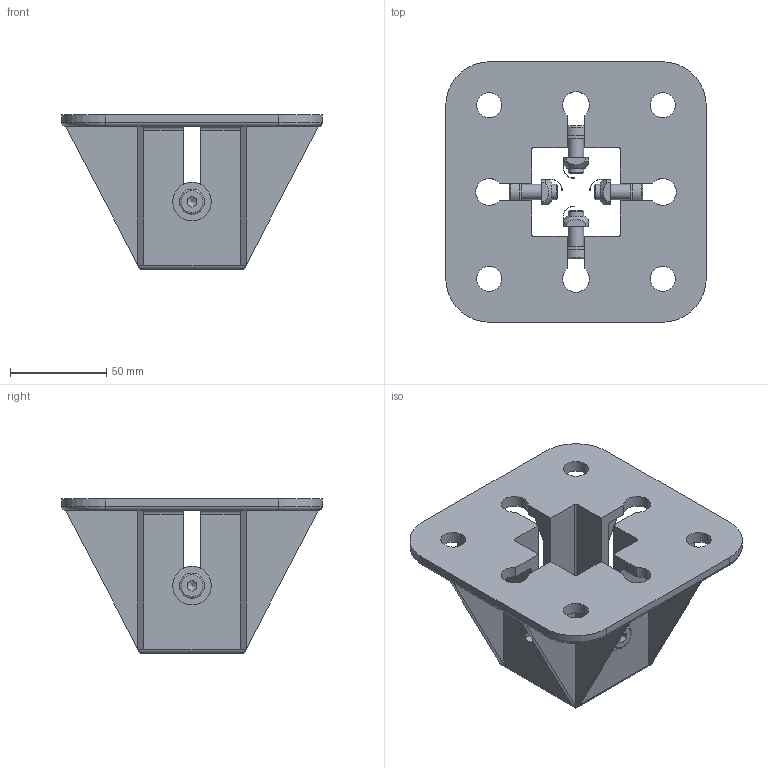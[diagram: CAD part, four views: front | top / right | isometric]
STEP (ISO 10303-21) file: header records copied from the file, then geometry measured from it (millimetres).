
FILE_DESCRIPTION((''),'2;1');
FILE_NAME('C:\Documents and Settings\Administrator\My Documents\Andys Backup Data\ANDY''S INVENTOR\INVENTOR LIBRARIES\MINITEC INVENTOR LIBRARIES\FEET WHEELS FLOOR FASTENING SUPPORTS\A PACKED FILES\STEP FILES\21.1731 FOOT 45 GD.stp','2010-06-28T08:40:50',('Administrator'),(''),'Autodesk Inventor 2009','Autodesk Inventor 2009','');
FILE_SCHEMA(('CONFIG_CONTROL_DESIGN'));
Length unit declared in the file: millimetre
Products named in the file (5): 21.1731 FOOT 45 GD; WASHER M8 ROUND O.D. 20mm; 21.1202  M8 x 20; 21.1351_2 M8 SQUARE NUT POS FXG
Assembly tree (13 placements, depth 2):
  21.1731 FOOT 45 GD
    21.1731 FOOT 45 GD
    WASHER M8 ROUND O.D. 20mm  x4
    21.1202  M8 x 20  x4
    21.1351_2 M8 SQUARE NUT POS FXG  x4
Bounding box: 135 x 135 x 80 mm (x, y, z)
Volume: 193581.7 mm3; surface area: 93607.1 mm2
Topology: 13 solids, 13 shells, 246 faces, 621 edges, 397 vertices
Faces by surface type: plane 128, cylinder 62, bspline 37, cone 12, torus 7
Full cylindrical faces by diameter (mm): 8 x8, 8.5 x4, 13 x4, 20 x4
Entity records: 4487 total; most frequent: CARTESIAN_POINT 1076, ORIENTED_EDGE 664, DIRECTION 629, EDGE_CURVE 332, VECTOR 225, LINE 225, VERTEX_POINT 214, AXIS2_PLACEMENT_3D 202
